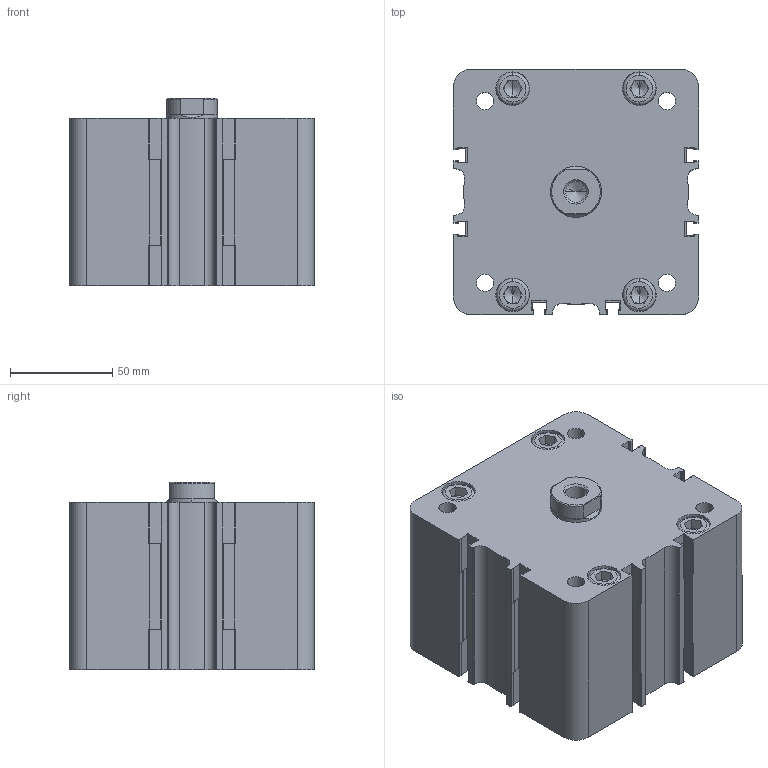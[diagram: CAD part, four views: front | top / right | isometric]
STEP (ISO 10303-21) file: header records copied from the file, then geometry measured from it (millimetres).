
FILE_DESCRIPTION (( 'STEP AP203' ), '1' );
FILE_NAME ('WF1000015A.step', '2013-04-22T07:24:46', ( '' ), ( '' ), 'SwSTEP 2.0', 'SolidWorks 2012', '' );
FILE_SCHEMA (( 'CONFIG_CONTROL_DESIGN' ));
Length unit declared in the file: millimetre
Products named in the file (1): WF1000015A
Bounding box: 120 x 120 x 92 mm (x, y, z)
Volume: 1105149.7 mm3; surface area: 94817.4 mm2
Topology: 1 solids, 1 shells, 552 faces, 1491 edges, 954 vertices
Faces by surface type: plane 281, cylinder 225, cone 30, torus 16
Entity records: 17445 total; most frequent: CARTESIAN_POINT 3134, DIRECTION 3096, ORIENTED_EDGE 2946, EDGE_CURVE 1473, AXIS2_PLACEMENT_3D 1088, VERTEX_POINT 954, LINE 920, VECTOR 920
